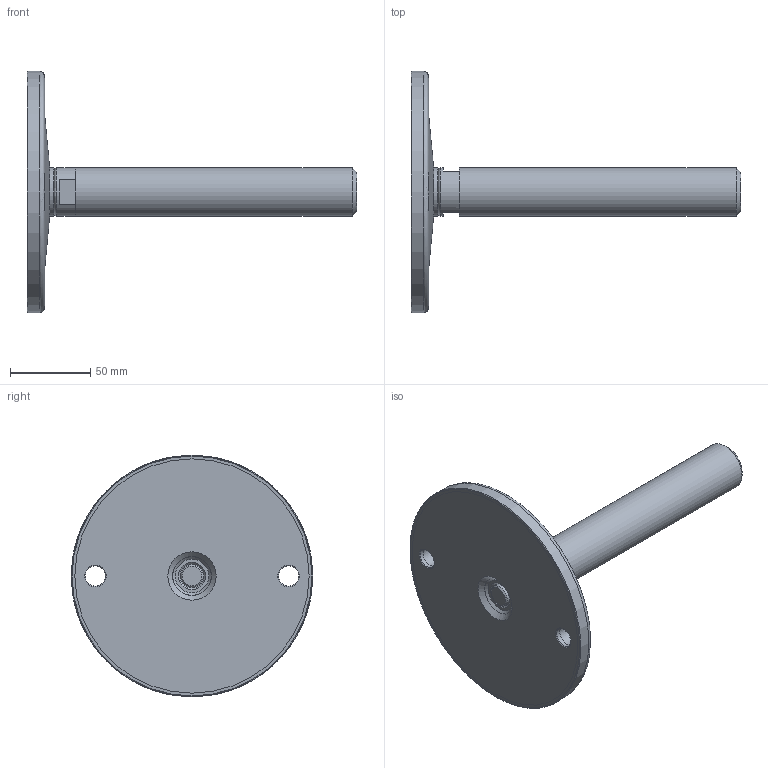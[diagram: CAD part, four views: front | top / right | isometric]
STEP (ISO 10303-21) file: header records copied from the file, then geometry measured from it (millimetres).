
FILE_DESCRIPTION(('STEP AP203'),'2;1');
FILE_NAME('15240.stp','2015-04-01T10:03:16',(''),(''),'2008.1.107','THINKDESIGN','');
FILE_SCHEMA(('CONFIG_CONTROL_DESIGN'));
Length unit declared in the file: millimetre
Bounding box: 205 x 150 x 150 mm (x, y, z)
Volume: 332455.1 mm3; surface area: 97610.6 mm2
Topology: 6 solids, 6 shells, 45 faces, 120 edges, 91 vertices
Faces by surface type: plane 19, bspline 14, cylinder 12
Full cylindrical faces by diameter (mm): 12.5 x4, 14 x1, 14.7 x1, 30 x3, 145.5 x2, 150 x1
Entity records: 2880 total; most frequent: CARTESIAN_POINT 1481, DIRECTION 271, ORIENTED_EDGE 238, AXIS2_PLACEMENT_3D 120, EDGE_CURVE 119, VERTEX_POINT 89, CIRCLE 89, EDGE_LOOP 60
